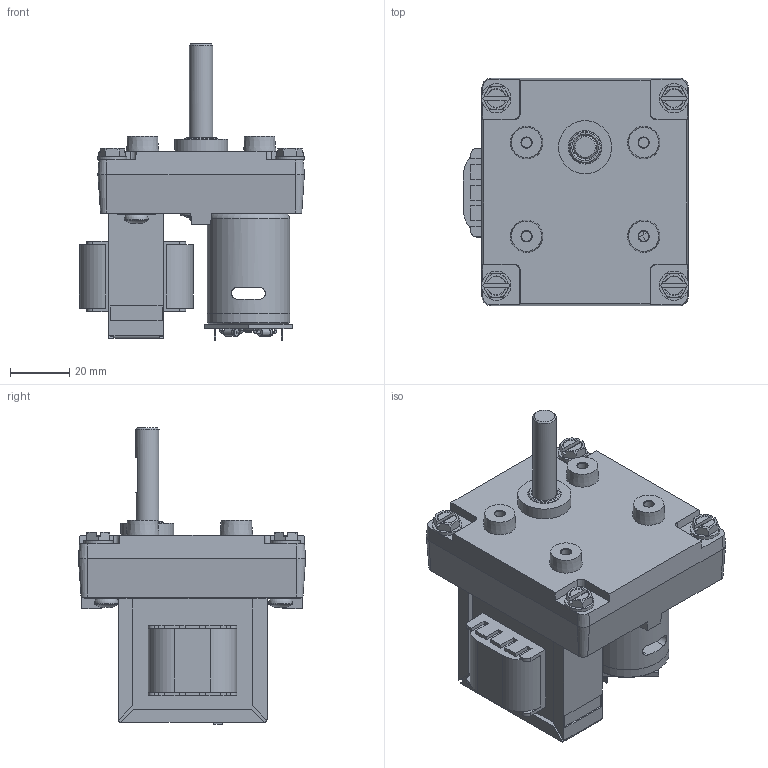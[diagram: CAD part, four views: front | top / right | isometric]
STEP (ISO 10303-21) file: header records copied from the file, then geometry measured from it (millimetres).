
FILE_DESCRIPTION (( 'STEP AP203' ), '1' );
FILE_NAME ('CJ-014-MRP 710-224-TR.STEP', '2018-09-26T16:46:05', ( '' ), ( '' ), 'SwSTEP 2.0', 'SolidWorks 2018', '' );
FILE_SCHEMA (( 'CONFIG_CONTROL_DESIGN' ));
Length unit declared in the file: millimetre
Products named in the file (2): CJ-014-MRP 710-224-TR
Bounding box: 76.3 x 77 x 100.45 mm (x, y, z)
Surface area: 38182 mm2 (no closed solid volume)
Topology: 0 solids, 37 shells, 542 faces, 1974 edges, 1475 vertices
Faces by surface type: plane 336, cylinder 108, cone 80, torus 18
Full cylindrical faces by diameter (mm): 0.762 x16, 0.9 x8, 1.5 x2, 2 x2, 2.3 x1, 2.54 x8, 2.565 x4, 3.4 x4, 3.5 x3, 4.3 x2, 5.7 x2, 7.96 x1, 8 x1, 9.9 x4, 10 x1, 10.5 x1, 11 x2, 14 x1, 18 x1, 28 x2
Entity records: 21673 total; most frequent: CARTESIAN_POINT 5160, DIRECTION 3311, ORIENTED_EDGE 2959, EDGE_CURVE 1843, VERTEX_POINT 1448, AXIS2_PLACEMENT_3D 1115, LINE 1081, VECTOR 1081
